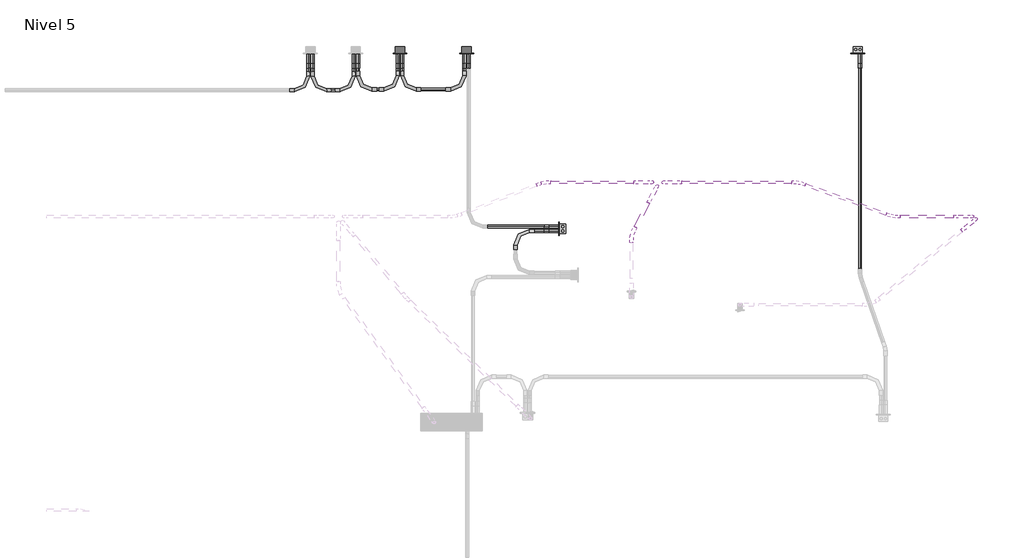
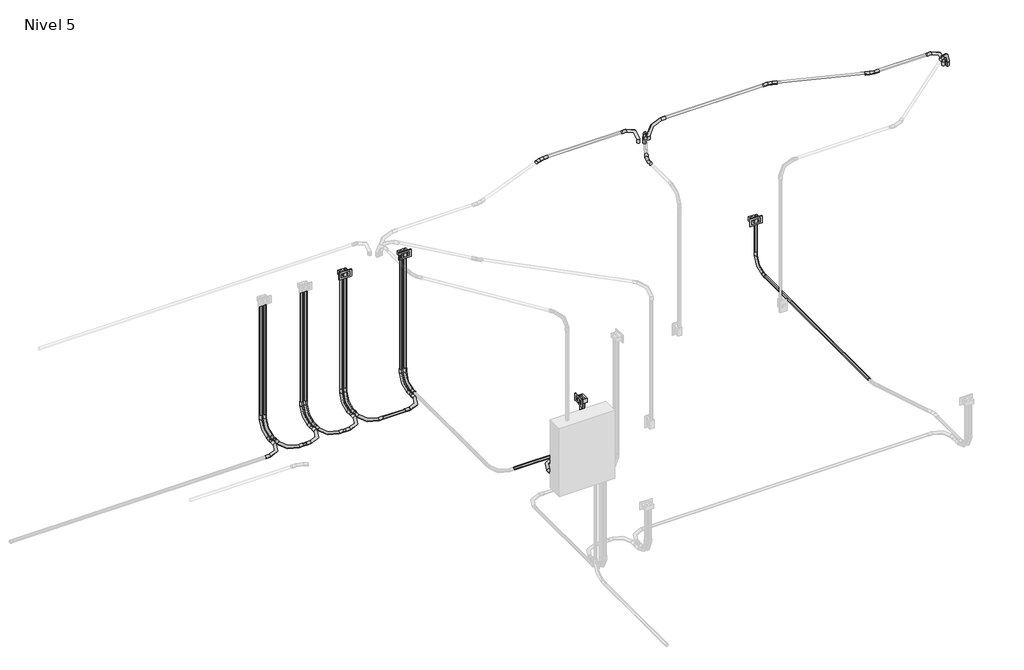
# One storey, part 9 of 9: 29 cable carrier segments, 28 cable carrier fittings, 4 proxies.
"""IFC4 building model written with IfcOpenShell, lengths in millimetres."""

from ifc_helpers import new_model, si_unit, point, frame, frame_2d, origin, place, context, project, spatial, circle_curve, trimmed, segment, composite_curve, outline, extrude, transform, mapped, element, save
from components import gfci_180f1b41, m_codo_de_tubo_extremo_liso_pvc_9da73e12, m_codo_de_tubo_extremo_liso_pvc_102f0f41, m_codo_de_tubo_extremo_liso_pvc_da9ca040, m_codo_de_tubo_extremo_liso_pvc_9389fd72, m_codo_de_tubo_extremo_liso_pvc_c6f8b71f

model = new_model("IFC4")

# Units and contexts
model_context = context("Model", 3, world=origin())
ifc_project = project(units=[si_unit("LENGTHUNIT", "METRE", prefix="MILLI")], contexts=[model_context])

# Site, building, storey
site = spatial("IfcSite", under=ifc_project)
building = spatial("IfcBuilding", under=site)
storey = spatial("IfcBuildingStorey", under=building, Name="Nivel 5", Elevation=10750.0)

# Proxies
placement = place(None, origin())
gfci_shape = gfci_180f1b41(model_context)
element("IfcBuildingElementProxy", 1, Name="Tomacorriente doble 220V : GFCI", ObjectType="Tomacorriente doble 220V : GFCI", at=placement, inside=storey, context=model_context, shape_type="MappedRepresentation", body=[
    mapped(gfci_shape, transform((3069.6888755, 17515.0, 11950.0), x_axis=(0.0, 0.0, 1.0), y_axis=(-1.0, 0.0, 0.0), z_axis=(0.0, -1.0, 0.0))),
])
element("IfcBuildingElementProxy", 2, Name="Tomacorriente doble 220V : GFCI", ObjectType="Tomacorriente doble 220V : GFCI", at=placement, inside=storey, context=model_context, shape_type="MappedRepresentation", body=[
    mapped(gfci_shape, transform((3617.6307595, 17515.0, 11950.0), x_axis=(0.0, 0.0, 1.0), y_axis=(-1.0, 0.0, 0.0), z_axis=(0.0, -1.0, 0.0))),
])
element("IfcBuildingElementProxy", 3, Name="Tomacorriente doble 220V : GFCI", ObjectType="Tomacorriente doble 220V : GFCI", at=placement, inside=storey, context=model_context, shape_type="MappedRepresentation", body=[
    mapped(gfci_shape, transform((4379.9531324, 16068.3219784, 11150.0), x_axis=(0.0, 0.0, 1.0), y_axis=(0.0, 1.0, 0.0), z_axis=(-1.0, 0.0, 0.0))),
])
element("IfcBuildingElementProxy", 4, Name="Tomacorriente doble 220V : GFCI", ObjectType="Tomacorriente doble 220V : GFCI", at=placement, inside=storey, context=model_context, shape_type="MappedRepresentation", body=[
    mapped(gfci_shape, transform((6835.4737929, 17515.0, 11150.0), x_axis=(0.0, 0.0, 1.0), y_axis=(-1.0, 0.0, 0.0), z_axis=(0.0, -1.0, 0.0))),
])

# Cable carrier fittings
m_codo_de_tubo_extremo_liso_pvc_shape = m_codo_de_tubo_extremo_liso_pvc_9da73e12(model_context)
element("IfcCableCarrierFitting", 5, ObjectType="M_Codo de tubo - Extremo liso - PVC : CODO POTENCIA", at=placement, inside=storey, context=model_context, shape_type="MappedRepresentation", body=[
    mapped(m_codo_de_tubo_extremo_liso_pvc_shape, transform((2350.9921117, 17544.6371118, 10680.0), x_axis=(0.0, 0.0, -1.0), y_axis=(0.0, -1.0, 0.0), z_axis=(-1.0, 0.0, 0.0))),
])
element("IfcCableCarrierFitting", 6, ObjectType="M_Codo de tubo - Extremo liso - PVC : CODO POTENCIA", at=placement, inside=storey, context=model_context, shape_type="MappedRepresentation", body=[
    mapped(m_codo_de_tubo_extremo_liso_pvc_shape, transform((2314.9284721, 17544.6371118, 10680.0), x_axis=(0.0, 0.0, -1.0), y_axis=(0.0, -1.0, 0.0), z_axis=(-1.0, 0.0, 0.0))),
])
element("IfcCableCarrierFitting", 7, ObjectType="M_Codo de tubo - Extremo liso - PVC : CODO POTENCIA", at=placement, inside=storey, context=model_context, shape_type="MappedRepresentation", body=[
    mapped(m_codo_de_tubo_extremo_liso_pvc_shape, transform((2688.4770064, 17544.6371118, 10680.0), x_axis=(0.0, 0.0, -1.0), y_axis=(0.0, -1.0, 0.0), z_axis=(-1.0, 0.0, 0.0))),
])
element("IfcCableCarrierFitting", 8, ObjectType="M_Codo de tubo - Extremo liso - PVC : CODO POTENCIA", at=placement, inside=storey, context=model_context, shape_type="MappedRepresentation", body=[
    mapped(m_codo_de_tubo_extremo_liso_pvc_shape, transform((2724.540646, 17544.6371118, 10680.0), x_axis=(0.0, 0.0, -1.0), y_axis=(0.0, -1.0, 0.0), z_axis=(-1.0, 0.0, 0.0))),
])
element("IfcCableCarrierFitting", 9, ObjectType="M_Codo de tubo - Extremo liso - PVC : CODO POTENCIA", at=placement, inside=storey, context=model_context, shape_type="MappedRepresentation", body=[
    mapped(m_codo_de_tubo_extremo_liso_pvc_shape, transform((3051.6570557, 17544.6371118, 10680.0), x_axis=(0.0, 0.0, -1.0), y_axis=(0.0, -1.0, 0.0), z_axis=(-1.0, 0.0, 0.0))),
])
element("IfcCableCarrierFitting", 10, ObjectType="M_Codo de tubo - Extremo liso - PVC : CODO POTENCIA", at=placement, inside=storey, context=model_context, shape_type="MappedRepresentation", body=[
    mapped(m_codo_de_tubo_extremo_liso_pvc_shape, transform((3087.7206953, 17544.6371118, 10680.0), x_axis=(0.0, 0.0, -1.0), y_axis=(0.0, -1.0, 0.0), z_axis=(-1.0, 0.0, 0.0))),
])
element("IfcCableCarrierFitting", 11, ObjectType="M_Codo de tubo - Extremo liso - PVC : CODO POTENCIA", at=placement, inside=storey, context=model_context, shape_type="MappedRepresentation", body=[
    mapped(m_codo_de_tubo_extremo_liso_pvc_shape, transform((3599.5989397, 17544.6371118, 10680.0), x_axis=(0.0, 0.0, -1.0), y_axis=(0.0, -1.0, 0.0), z_axis=(-1.0, 0.0, 0.0))),
])
element("IfcCableCarrierFitting", 12, ObjectType="M_Codo de tubo - Extremo liso - PVC : CODO POTENCIA", at=placement, inside=storey, context=model_context, shape_type="MappedRepresentation", body=[
    mapped(m_codo_de_tubo_extremo_liso_pvc_shape, transform((3635.6625794, 17544.6371118, 10680.0), x_axis=(0.0, 0.0, -1.0), y_axis=(0.0, -1.0, 0.0), z_axis=(-1.0, 0.0, 0.0))),
])
element("IfcCableCarrierFitting", 13, ObjectType="M_Codo de tubo - Extremo liso - PVC : CODO POTENCIA", at=placement, inside=storey, context=model_context, shape_type="MappedRepresentation", body=[
    mapped(m_codo_de_tubo_extremo_liso_pvc_shape, transform((4409.5902442, 16050.2901586, 10680.0), x_axis=(0.0, 0.0, -1.0), y_axis=(-1.0, 0.0, 0.0), z_axis=(0.0, 1.0, 0.0))),
])
element("IfcCableCarrierFitting", 14, ObjectType="M_Codo de tubo - Extremo liso - PVC : CODO POTENCIA", at=placement, inside=storey, context=model_context, shape_type="MappedRepresentation", body=[
    mapped(m_codo_de_tubo_extremo_liso_pvc_shape, transform((6853.5056127, 17544.6371118, 10680.0), x_axis=(0.0, 0.0, -1.0), y_axis=(0.0, -1.0, 0.0), z_axis=(-1.0, 0.0, 0.0))),
])
element("IfcCableCarrierFitting", 15, ObjectType="M_Codo de tubo - Extremo liso - PVC : CODO POTENCIA", at=placement, inside=storey, context=model_context, shape_type="MappedRepresentation", body=[
    mapped(m_codo_de_tubo_extremo_liso_pvc_shape, transform((4020.3160206, 16050.2901586, 10680.0), x_axis=(-1.0, 0.0, 0.0), y_axis=(0.0, -1.0, 0.0), z_axis=(0.0, 0.0, 1.0))),
])
element("IfcCableCarrierFitting", 16, ObjectType="M_Codo de tubo - Extremo liso - PVC : CODO POTENCIA", at=placement, inside=storey, context=model_context, shape_type="MappedRepresentation", body=[
    mapped(m_codo_de_tubo_extremo_liso_pvc_shape, transform((4409.5902442, 16086.3537982, 10680.0), x_axis=(0.0, 0.0, -1.0), y_axis=(-1.0, 0.0, 0.0), z_axis=(0.0, 1.0, 0.0))),
])
element("IfcCableCarrierFitting", 17, ObjectType="M_Codo de tubo - Extremo liso - PVC : CODO POTENCIA", at=placement, inside=storey, context=model_context, shape_type="MappedRepresentation", body=[
    mapped(m_codo_de_tubo_extremo_liso_pvc_shape, transform((3087.7206953, 17215.4019357, 10680.0), x_axis=(0.0, -1.0, 0.0), y_axis=(1.0, 0.0, 0.0), z_axis=(0.0, 0.0, 1.0))),
])
element("IfcCableCarrierFitting", 18, ObjectType="M_Codo de tubo - Extremo liso - PVC : CODO POTENCIA", at=placement, inside=storey, context=model_context, shape_type="MappedRepresentation", body=[
    mapped(m_codo_de_tubo_extremo_liso_pvc_shape, transform((3599.5989397, 17215.4019357, 10680.0), x_axis=(1.0, 0.0, 0.0), y_axis=(0.0, 1.0, 0.0), z_axis=(0.0, 0.0, 1.0))),
])
element("IfcCableCarrierFitting", 19, ObjectType="M_Codo de tubo - Extremo liso - PVC : CODO POTENCIA", at=placement, inside=storey, context=model_context, shape_type="MappedRepresentation", body=[
    mapped(m_codo_de_tubo_extremo_liso_pvc_shape, transform((2724.540646, 17215.4019357, 10680.0), x_axis=(0.0, -1.0, 0.0), y_axis=(1.0, 0.0, 0.0), z_axis=(0.0, 0.0, 1.0))),
])
element("IfcCableCarrierFitting", 20, ObjectType="M_Codo de tubo - Extremo liso - PVC : CODO POTENCIA", at=placement, inside=storey, context=model_context, shape_type="MappedRepresentation", body=[
    mapped(m_codo_de_tubo_extremo_liso_pvc_shape, transform((3051.6570557, 17215.4019357, 10680.0), x_axis=(1.0, 0.0, 0.0), y_axis=(0.0, 1.0, 0.0), z_axis=(0.0, 0.0, 1.0))),
])
element("IfcCableCarrierFitting", 21, ObjectType="M_Codo de tubo - Extremo liso - PVC : CODO POTENCIA", at=placement, inside=storey, context=model_context, shape_type="MappedRepresentation", body=[
    mapped(m_codo_de_tubo_extremo_liso_pvc_shape, transform((2350.9921117, 17208.8420057, 10680.0), x_axis=(0.0, -1.0, 0.0), y_axis=(1.0, 0.0, 0.0), z_axis=(0.0, 0.0, 1.0))),
])
element("IfcCableCarrierFitting", 22, ObjectType="M_Codo de tubo - Extremo liso - PVC : CODO POTENCIA", at=placement, inside=storey, context=model_context, shape_type="MappedRepresentation", body=[
    mapped(m_codo_de_tubo_extremo_liso_pvc_shape, transform((2688.4770064, 17208.8420057, 10680.0), x_axis=(1.0, 0.0, 0.0), y_axis=(0.0, 1.0, 0.0), z_axis=(0.0, 0.0, 1.0))),
])
element("IfcCableCarrierFitting", 23, ObjectType="M_Codo de tubo - Extremo liso - PVC : CODO POTENCIA", at=placement, inside=storey, context=model_context, shape_type="MappedRepresentation", body=[
    mapped(m_codo_de_tubo_extremo_liso_pvc_shape, transform((2314.9284721, 17208.8420057, 10680.0), x_axis=(1.0, 0.0, 0.0), y_axis=(0.0, 1.0, 0.0), z_axis=(0.0, 0.0, 1.0))),
])
element("IfcCableCarrierFitting", 24, ObjectType="M_Codo de tubo - Extremo liso - PVC : CODO ILUMINACION", at=placement, inside=storey, context=model_context, shape_type="MappedRepresentation", body=[
    mapped(m_codo_de_tubo_extremo_liso_pvc_shape, transform((5236.4815144, 16450.3457928, 13300.0), x_axis=(-1.0, 0.0, 0.0), y_axis=(0.0, 0.0, -1.0), z_axis=(0.0, -1.0, 0.0))),
])
element("IfcCableCarrierFitting", 25, ObjectType="M_Codo de tubo - Extremo liso - PVC : CODO ILUMINACION", at=placement, inside=storey, context=model_context, shape_type="MappedRepresentation", body=[
    mapped(m_codo_de_tubo_extremo_liso_pvc_shape, transform((5183.5746013, 16418.2767291, 13300.0), x_axis=(0.46947156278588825, 0.8829475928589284, 0.0), y_axis=(0.0, 0.0, -1.0000000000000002), z_axis=(-0.8829475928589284, 0.46947156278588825, 0.0))),
])
element("IfcCableCarrierFitting", 26, ObjectType="M_Codo de tubo - Extremo liso - PVC : CODO ILUMINACION", at=placement, inside=storey, context=model_context, shape_type="MappedRepresentation", body=[
    mapped(m_codo_de_tubo_extremo_liso_pvc_shape, transform((7806.0848215, 16148.8589998, 13300.0), x_axis=(0.7716684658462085, 0.6360249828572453, 0.0), y_axis=(0.0, 0.0, -1.0000000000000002), z_axis=(-0.6360249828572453, 0.7716684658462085, 0.0))),
])
m_codo_de_tubo_extremo_liso_pvc_2_shape = m_codo_de_tubo_extremo_liso_pvc_102f0f41(model_context)
element("IfcCableCarrierFitting", 27, ObjectType="M_Codo de tubo - Extremo liso - PVC : CODO ILUMINACION", at=placement, inside=storey, context=model_context, shape_type="MappedRepresentation", body=[
    mapped(m_codo_de_tubo_extremo_liso_pvc_2_shape, transform((5143.3290956, 16450.3457928, 13300.0), x_axis=(1.0, 0.0, 0.0), y_axis=(0.0, 0.0, 1.0), z_axis=(0.0, -1.0, 0.0))),
])
element("IfcCableCarrierFitting", 28, ObjectType="M_Codo de tubo - Extremo liso - PVC : CODO ILUMINACION", at=placement, inside=storey, context=model_context, shape_type="MappedRepresentation", body=[
    mapped(m_codo_de_tubo_extremo_liso_pvc_2_shape, transform((7777.305418, 16168.6370953, 13300.0), x_axis=(1.0, 0.0, 0.0), y_axis=(0.0, 0.0, 1.0), z_axis=(0.0, -1.0, 0.0))),
])
m_codo_de_tubo_extremo_liso_pvc_3_shape = m_codo_de_tubo_extremo_liso_pvc_da9ca040(model_context)
element("IfcCableCarrierFitting", 29, ObjectType="M_Codo de tubo - Extremo liso - PVC : CODO ILUMINACION", at=placement, inside=storey, context=model_context, shape_type="MappedRepresentation", body=[
    mapped(m_codo_de_tubo_extremo_liso_pvc_3_shape, transform((4250.9290956, 16450.3457928, 13300.0), x_axis=(-1.0, 0.0, 0.0), y_axis=(0.0, -1.0, 0.0), z_axis=(0.0, 0.0, 1.0))),
])
m_codo_de_tubo_extremo_liso_pvc_4_shape = m_codo_de_tubo_extremo_liso_pvc_9389fd72(model_context)
element("IfcCableCarrierFitting", 30, ObjectType="M_Codo de tubo - Extremo liso - PVC : CODO ILUMINACION", at=placement, inside=storey, context=model_context, shape_type="MappedRepresentation", body=[
    mapped(m_codo_de_tubo_extremo_liso_pvc_4_shape, transform((6348.8815144, 16450.3457928, 13300.0), x_axis=(-0.9399807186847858, 0.3412275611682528, 0.0), y_axis=(-0.3412275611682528, -0.9399807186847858, 0.0), z_axis=(0.0, 0.0, 1.0))),
])
element("IfcCableCarrierFitting", 31, ObjectType="M_Codo de tubo - Extremo liso - PVC : CODO ILUMINACION", at=placement, inside=storey, context=model_context, shape_type="MappedRepresentation", body=[
    mapped(m_codo_de_tubo_extremo_liso_pvc_4_shape, transform((7124.905418, 16168.6370953, 13300.0), x_axis=(0.9399807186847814, -0.3412275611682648, 0.0), y_axis=(0.3412275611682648, 0.9399807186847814, 0.0), z_axis=(0.0, 0.0, 1.0))),
])
m_codo_de_tubo_extremo_liso_pvc_5_shape = m_codo_de_tubo_extremo_liso_pvc_c6f8b71f(model_context)
element("IfcCableCarrierFitting", 32, ObjectType="M_Codo de tubo - Extremo liso - PVC : CODO ILUMINACION", at=placement, inside=storey, context=model_context, shape_type="MappedRepresentation", body=[
    mapped(m_codo_de_tubo_extremo_liso_pvc_5_shape, transform((4973.7041598, 16023.5678356, 13300.0), x_axis=(-0.4694715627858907, -0.882947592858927, 0.0), y_axis=(0.882947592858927, -0.4694715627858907, 0.0), z_axis=(0.0, 0.0, 1.0))),
])

# Cable carrier segments
element("IfcCableCarrierSegment", 33, ObjectType="PVC-SEL, POTENCIA", at=placement, inside=storey, context=model_context, shape_type="SweptSolid", body=[
    extrude(outline(composite_curve([segment(trimmed(circle_curve(frame_2d((10680.0, 2350.9921117)), 11.71), [point((10680.0, 2339.2821117))], [point((10668.29, 2350.9921117))], False, "CARTESIAN"), True, "CONTINUOUS"), segment(trimmed(circle_curve(frame_2d((10680.0, 2350.9921117)), 11.71), [point((10668.29, 2350.9921117))], [point((10680.0, 2362.7021117))], False, "CARTESIAN"), True, "CONTINUOUS"), segment(trimmed(circle_curve(frame_2d((10680.0, 2350.9921117)), 11.71), [point((10680.0, 2362.7021117))], [point((10691.71, 2350.9921117))], False, "CARTESIAN"), True, "CONTINUOUS"), segment(trimmed(circle_curve(frame_2d((10680.0, 2350.9921117)), 11.71), [point((10691.71, 2350.9921117))], [point((10680.0, 2339.2821117))], False, "CARTESIAN"), True, "CONTINUOUS")], self_intersect=False)), frame((0.0, 17361.2420057, 0.0), z_axis=(0.0, 1.0, 0.0), x_axis=(0.0, 0.0, 1.0)), (0.0, 0.0, 1.0), 30.9951061),
])
element("IfcCableCarrierSegment", 34, ObjectType="PVC-SEL, POTENCIA", at=placement, inside=storey, context=model_context, shape_type="SweptSolid", body=[
    extrude(outline(composite_curve([segment(trimmed(circle_curve(frame_2d((2350.9921117, 17544.6371118)), 11.71), [point((2362.7021117, 17544.6371118))], [point((2350.9921117, 17532.9271118))], False, "CARTESIAN"), True, "CONTINUOUS"), segment(trimmed(circle_curve(frame_2d((2350.9921117, 17544.6371118)), 11.71), [point((2350.9921117, 17532.9271118))], [point((2339.2821117, 17544.6371118))], False, "CARTESIAN"), True, "CONTINUOUS"), segment(trimmed(circle_curve(frame_2d((2350.9921117, 17544.6371118)), 11.71), [point((2339.2821117, 17544.6371118))], [point((2350.9921117, 17556.3471118))], False, "CARTESIAN"), True, "CONTINUOUS"), segment(trimmed(circle_curve(frame_2d((2350.9921117, 17544.6371118)), 11.71), [point((2350.9921117, 17556.3471118))], [point((2362.7021117, 17544.6371118))], False, "CARTESIAN"), True, "CONTINUOUS")], self_intersect=False)), frame((0.0, 0.0, 10832.4), z_axis=(0.0, 0.0, 1.0), x_axis=(1.0, 0.0, 0.0)), (0.0, 0.0, 1.0), 1097.3020537),
])
element("IfcCableCarrierSegment", 35, ObjectType="PVC-SEL, POTENCIA", at=placement, inside=storey, context=model_context, shape_type="SweptSolid", body=[
    extrude(outline(composite_curve([segment(trimmed(circle_curve(frame_2d((10680.0, 2314.9284721)), 11.71), [point((10680.0, 2303.2184721))], [point((10668.29, 2314.9284721))], False, "CARTESIAN"), True, "CONTINUOUS"), segment(trimmed(circle_curve(frame_2d((10680.0, 2314.9284721)), 11.71), [point((10668.29, 2314.9284721))], [point((10680.0, 2326.6384721))], False, "CARTESIAN"), True, "CONTINUOUS"), segment(trimmed(circle_curve(frame_2d((10680.0, 2314.9284721)), 11.71), [point((10680.0, 2326.6384721))], [point((10691.71, 2314.9284721))], False, "CARTESIAN"), True, "CONTINUOUS"), segment(trimmed(circle_curve(frame_2d((10680.0, 2314.9284721)), 11.71), [point((10691.71, 2314.9284721))], [point((10680.0, 2303.2184721))], False, "CARTESIAN"), True, "CONTINUOUS")], self_intersect=False)), frame((0.0, 17361.2420057, 0.0), z_axis=(0.0, 1.0, 0.0), x_axis=(0.0, 0.0, 1.0)), (0.0, 0.0, 1.0), 30.9951061),
])
element("IfcCableCarrierSegment", 36, ObjectType="PVC-SEL, POTENCIA", at=placement, inside=storey, context=model_context, shape_type="SweptSolid", body=[
    extrude(outline(composite_curve([segment(trimmed(circle_curve(frame_2d((2314.9284721, 17544.6371118)), 11.71), [point((2326.6384721, 17544.6371118))], [point((2314.9284721, 17532.9271118))], False, "CARTESIAN"), True, "CONTINUOUS"), segment(trimmed(circle_curve(frame_2d((2314.9284721, 17544.6371118)), 11.71), [point((2314.9284721, 17532.9271118))], [point((2303.2184721, 17544.6371118))], False, "CARTESIAN"), True, "CONTINUOUS"), segment(trimmed(circle_curve(frame_2d((2314.9284721, 17544.6371118)), 11.71), [point((2303.2184721, 17544.6371118))], [point((2314.9284721, 17556.3471118))], False, "CARTESIAN"), True, "CONTINUOUS"), segment(trimmed(circle_curve(frame_2d((2314.9284721, 17544.6371118)), 11.71), [point((2314.9284721, 17556.3471118))], [point((2326.6384721, 17544.6371118))], False, "CARTESIAN"), True, "CONTINUOUS")], self_intersect=False)), frame((0.0, 0.0, 10832.4), z_axis=(0.0, 0.0, 1.0), x_axis=(1.0, 0.0, 0.0)), (0.0, 0.0, 1.0), 1097.3020537),
])
element("IfcCableCarrierSegment", 37, ObjectType="PVC-SEL, POTENCIA", at=placement, inside=storey, context=model_context, shape_type="SweptSolid", body=[
    extrude(outline(composite_curve([segment(trimmed(circle_curve(frame_2d((10680.0, 2688.4770064)), 11.71), [point((10680.0, 2676.7670064))], [point((10668.29, 2688.4770064))], False, "CARTESIAN"), True, "CONTINUOUS"), segment(trimmed(circle_curve(frame_2d((10680.0, 2688.4770064)), 11.71), [point((10668.29, 2688.4770064))], [point((10680.0, 2700.1870064))], False, "CARTESIAN"), True, "CONTINUOUS"), segment(trimmed(circle_curve(frame_2d((10680.0, 2688.4770064)), 11.71), [point((10680.0, 2700.1870064))], [point((10691.71, 2688.4770064))], False, "CARTESIAN"), True, "CONTINUOUS"), segment(trimmed(circle_curve(frame_2d((10680.0, 2688.4770064)), 11.71), [point((10691.71, 2688.4770064))], [point((10680.0, 2676.7670064))], False, "CARTESIAN"), True, "CONTINUOUS")], self_intersect=False)), frame((0.0, 17361.2420057, 0.0), z_axis=(0.0, 1.0, 0.0), x_axis=(0.0, 0.0, 1.0)), (0.0, 0.0, 1.0), 30.9951061),
])
element("IfcCableCarrierSegment", 38, ObjectType="PVC-SEL, POTENCIA", at=placement, inside=storey, context=model_context, shape_type="SweptSolid", body=[
    extrude(outline(composite_curve([segment(trimmed(circle_curve(frame_2d((2688.4770064, 17544.6371118)), 11.71), [point((2700.1870064, 17544.6371118))], [point((2688.4770064, 17532.9271118))], False, "CARTESIAN"), True, "CONTINUOUS"), segment(trimmed(circle_curve(frame_2d((2688.4770064, 17544.6371118)), 11.71), [point((2688.4770064, 17532.9271118))], [point((2676.7670064, 17544.6371118))], False, "CARTESIAN"), True, "CONTINUOUS"), segment(trimmed(circle_curve(frame_2d((2688.4770064, 17544.6371118)), 11.71), [point((2676.7670064, 17544.6371118))], [point((2688.4770064, 17556.3471118))], False, "CARTESIAN"), True, "CONTINUOUS"), segment(trimmed(circle_curve(frame_2d((2688.4770064, 17544.6371118)), 11.71), [point((2688.4770064, 17556.3471118))], [point((2700.1870064, 17544.6371118))], False, "CARTESIAN"), True, "CONTINUOUS")], self_intersect=False)), frame((0.0, 0.0, 10832.4), z_axis=(0.0, 0.0, 1.0), x_axis=(1.0, 0.0, 0.0)), (0.0, 0.0, 1.0), 1097.3020537),
])
element("IfcCableCarrierSegment", 39, ObjectType="PVC-SEL, POTENCIA", at=placement, inside=storey, context=model_context, shape_type="SweptSolid", body=[
    extrude(outline(composite_curve([segment(trimmed(circle_curve(frame_2d((10680.0, 2724.540646)), 11.71), [point((10680.0, 2712.830646))], [point((10668.29, 2724.540646))], False, "CARTESIAN"), True, "CONTINUOUS"), segment(trimmed(circle_curve(frame_2d((10680.0, 2724.540646)), 11.71), [point((10668.29, 2724.540646))], [point((10680.0, 2736.250646))], False, "CARTESIAN"), True, "CONTINUOUS"), segment(trimmed(circle_curve(frame_2d((10680.0, 2724.540646)), 11.71), [point((10680.0, 2736.250646))], [point((10691.71, 2724.540646))], False, "CARTESIAN"), True, "CONTINUOUS"), segment(trimmed(circle_curve(frame_2d((10680.0, 2724.540646)), 11.71), [point((10691.71, 2724.540646))], [point((10680.0, 2712.830646))], False, "CARTESIAN"), True, "CONTINUOUS")], self_intersect=False)), frame((0.0, 17367.8019357, 0.0), z_axis=(0.0, 1.0, 0.0), x_axis=(0.0, 0.0, 1.0)), (0.0, 0.0, 1.0), 24.435176),
])
element("IfcCableCarrierSegment", 40, ObjectType="PVC-SEL, POTENCIA", at=placement, inside=storey, context=model_context, shape_type="SweptSolid", body=[
    extrude(outline(composite_curve([segment(trimmed(circle_curve(frame_2d((2724.540646, 17544.6371118)), 11.71), [point((2736.250646, 17544.6371118))], [point((2724.540646, 17532.9271118))], False, "CARTESIAN"), True, "CONTINUOUS"), segment(trimmed(circle_curve(frame_2d((2724.540646, 17544.6371118)), 11.71), [point((2724.540646, 17532.9271118))], [point((2712.830646, 17544.6371118))], False, "CARTESIAN"), True, "CONTINUOUS"), segment(trimmed(circle_curve(frame_2d((2724.540646, 17544.6371118)), 11.71), [point((2712.830646, 17544.6371118))], [point((2724.540646, 17556.3471118))], False, "CARTESIAN"), True, "CONTINUOUS"), segment(trimmed(circle_curve(frame_2d((2724.540646, 17544.6371118)), 11.71), [point((2724.540646, 17556.3471118))], [point((2736.250646, 17544.6371118))], False, "CARTESIAN"), True, "CONTINUOUS")], self_intersect=False)), frame((0.0, 0.0, 10832.4), z_axis=(0.0, 0.0, 1.0), x_axis=(1.0, 0.0, 0.0)), (0.0, 0.0, 1.0), 1097.3020537),
])
element("IfcCableCarrierSegment", 41, ObjectType="PVC-SEL, POTENCIA", at=placement, inside=storey, context=model_context, shape_type="SweptSolid", body=[
    extrude(outline(composite_curve([segment(trimmed(circle_curve(frame_2d((10680.0, 3051.6570557)), 11.71), [point((10680.0, 3039.9470557))], [point((10668.29, 3051.6570557))], False, "CARTESIAN"), True, "CONTINUOUS"), segment(trimmed(circle_curve(frame_2d((10680.0, 3051.6570557)), 11.71), [point((10668.29, 3051.6570557))], [point((10680.0, 3063.3670557))], False, "CARTESIAN"), True, "CONTINUOUS"), segment(trimmed(circle_curve(frame_2d((10680.0, 3051.6570557)), 11.71), [point((10680.0, 3063.3670557))], [point((10691.71, 3051.6570557))], False, "CARTESIAN"), True, "CONTINUOUS"), segment(trimmed(circle_curve(frame_2d((10680.0, 3051.6570557)), 11.71), [point((10691.71, 3051.6570557))], [point((10680.0, 3039.9470557))], False, "CARTESIAN"), True, "CONTINUOUS")], self_intersect=False)), frame((0.0, 17367.8019357, 0.0), z_axis=(0.0, 1.0, 0.0), x_axis=(0.0, 0.0, 1.0)), (0.0, 0.0, 1.0), 24.435176),
])
element("IfcCableCarrierSegment", 42, ObjectType="PVC-SEL, POTENCIA", at=placement, inside=storey, context=model_context, shape_type="SweptSolid", body=[
    extrude(outline(composite_curve([segment(trimmed(circle_curve(frame_2d((3051.6570557, 17544.6371118)), 11.71), [point((3063.3670557, 17544.6371118))], [point((3051.6570557, 17532.9271118))], False, "CARTESIAN"), True, "CONTINUOUS"), segment(trimmed(circle_curve(frame_2d((3051.6570557, 17544.6371118)), 11.71), [point((3051.6570557, 17532.9271118))], [point((3039.9470557, 17544.6371118))], False, "CARTESIAN"), True, "CONTINUOUS"), segment(trimmed(circle_curve(frame_2d((3051.6570557, 17544.6371118)), 11.71), [point((3039.9470557, 17544.6371118))], [point((3051.6570557, 17556.3471118))], False, "CARTESIAN"), True, "CONTINUOUS"), segment(trimmed(circle_curve(frame_2d((3051.6570557, 17544.6371118)), 11.71), [point((3051.6570557, 17556.3471118))], [point((3063.3670557, 17544.6371118))], False, "CARTESIAN"), True, "CONTINUOUS")], self_intersect=False)), frame((0.0, 0.0, 10832.4), z_axis=(0.0, 0.0, 1.0), x_axis=(1.0, 0.0, 0.0)), (0.0, 0.0, 1.0), 1097.3020537),
])
element("IfcCableCarrierSegment", 43, ObjectType="PVC-SEL, POTENCIA", at=placement, inside=storey, context=model_context, shape_type="SweptSolid", body=[
    extrude(outline(composite_curve([segment(trimmed(circle_curve(frame_2d((10680.0, 3087.7206953)), 11.71), [point((10680.0, 3076.0106953))], [point((10668.29, 3087.7206953))], False, "CARTESIAN"), True, "CONTINUOUS"), segment(trimmed(circle_curve(frame_2d((10680.0, 3087.7206953)), 11.71), [point((10668.29, 3087.7206953))], [point((10680.0, 3099.4306953))], False, "CARTESIAN"), True, "CONTINUOUS"), segment(trimmed(circle_curve(frame_2d((10680.0, 3087.7206953)), 11.71), [point((10680.0, 3099.4306953))], [point((10691.71, 3087.7206953))], False, "CARTESIAN"), True, "CONTINUOUS"), segment(trimmed(circle_curve(frame_2d((10680.0, 3087.7206953)), 11.71), [point((10691.71, 3087.7206953))], [point((10680.0, 3076.0106953))], False, "CARTESIAN"), True, "CONTINUOUS")], self_intersect=False)), frame((0.0, 17367.8019357, 0.0), z_axis=(0.0, 1.0, 0.0), x_axis=(0.0, 0.0, 1.0)), (0.0, 0.0, 1.0), 24.435176),
])
element("IfcCableCarrierSegment", 44, ObjectType="PVC-SEL, POTENCIA", at=placement, inside=storey, context=model_context, shape_type="SweptSolid", body=[
    extrude(outline(composite_curve([segment(trimmed(circle_curve(frame_2d((3087.7206953, 17544.6371118)), 11.71), [point((3099.4306953, 17544.6371118))], [point((3087.7206953, 17532.9271118))], False, "CARTESIAN"), True, "CONTINUOUS"), segment(trimmed(circle_curve(frame_2d((3087.7206953, 17544.6371118)), 11.71), [point((3087.7206953, 17532.9271118))], [point((3076.0106953, 17544.6371118))], False, "CARTESIAN"), True, "CONTINUOUS"), segment(trimmed(circle_curve(frame_2d((3087.7206953, 17544.6371118)), 11.71), [point((3076.0106953, 17544.6371118))], [point((3087.7206953, 17556.3471118))], False, "CARTESIAN"), True, "CONTINUOUS"), segment(trimmed(circle_curve(frame_2d((3087.7206953, 17544.6371118)), 11.71), [point((3087.7206953, 17556.3471118))], [point((3099.4306953, 17544.6371118))], False, "CARTESIAN"), True, "CONTINUOUS")], self_intersect=False)), frame((0.0, 0.0, 10832.4), z_axis=(0.0, 0.0, 1.0), x_axis=(1.0, 0.0, 0.0)), (0.0, 0.0, 1.0), 1097.3020537),
])
element("IfcCableCarrierSegment", 45, ObjectType="PVC-SEL, POTENCIA", at=placement, inside=storey, context=model_context, shape_type="SweptSolid", body=[
    extrude(outline(composite_curve([segment(trimmed(circle_curve(frame_2d((10680.0, 3599.5989397)), 11.71), [point((10680.0, 3587.8889397))], [point((10668.29, 3599.5989397))], False, "CARTESIAN"), True, "CONTINUOUS"), segment(trimmed(circle_curve(frame_2d((10680.0, 3599.5989397)), 11.71), [point((10668.29, 3599.5989397))], [point((10680.0, 3611.3089397))], False, "CARTESIAN"), True, "CONTINUOUS"), segment(trimmed(circle_curve(frame_2d((10680.0, 3599.5989397)), 11.71), [point((10680.0, 3611.3089397))], [point((10691.71, 3599.5989397))], False, "CARTESIAN"), True, "CONTINUOUS"), segment(trimmed(circle_curve(frame_2d((10680.0, 3599.5989397)), 11.71), [point((10691.71, 3599.5989397))], [point((10680.0, 3587.8889397))], False, "CARTESIAN"), True, "CONTINUOUS")], self_intersect=False)), frame((0.0, 17367.8019357, 0.0), z_axis=(0.0, 1.0, 0.0), x_axis=(0.0, 0.0, 1.0)), (0.0, 0.0, 1.0), 24.435176),
])
element("IfcCableCarrierSegment", 46, ObjectType="PVC-SEL, POTENCIA", at=placement, inside=storey, context=model_context, shape_type="SweptSolid", body=[
    extrude(outline(composite_curve([segment(trimmed(circle_curve(frame_2d((3599.5989397, 17544.6371118)), 11.71), [point((3611.3089397, 17544.6371118))], [point((3599.5989397, 17532.9271118))], False, "CARTESIAN"), True, "CONTINUOUS"), segment(trimmed(circle_curve(frame_2d((3599.5989397, 17544.6371118)), 11.71), [point((3599.5989397, 17532.9271118))], [point((3587.8889397, 17544.6371118))], False, "CARTESIAN"), True, "CONTINUOUS"), segment(trimmed(circle_curve(frame_2d((3599.5989397, 17544.6371118)), 11.71), [point((3587.8889397, 17544.6371118))], [point((3599.5989397, 17556.3471118))], False, "CARTESIAN"), True, "CONTINUOUS"), segment(trimmed(circle_curve(frame_2d((3599.5989397, 17544.6371118)), 11.71), [point((3599.5989397, 17556.3471118))], [point((3611.3089397, 17544.6371118))], False, "CARTESIAN"), True, "CONTINUOUS")], self_intersect=False)), frame((0.0, 0.0, 10832.4), z_axis=(0.0, 0.0, 1.0), x_axis=(1.0, 0.0, 0.0)), (0.0, 0.0, 1.0), 1097.3020537),
])
element("IfcCableCarrierSegment", 47, ObjectType="PVC-SEL, POTENCIA", at=placement, inside=storey, context=model_context, shape_type="SweptSolid", body=[
    extrude(outline(composite_curve([segment(trimmed(circle_curve(frame_2d((3635.6625794, 17544.6371118)), 11.71), [point((3647.3725794, 17544.6371118))], [point((3635.6625794, 17532.9271118))], False, "CARTESIAN"), True, "CONTINUOUS"), segment(trimmed(circle_curve(frame_2d((3635.6625794, 17544.6371118)), 11.71), [point((3635.6625794, 17532.9271118))], [point((3623.9525794, 17544.6371118))], False, "CARTESIAN"), True, "CONTINUOUS"), segment(trimmed(circle_curve(frame_2d((3635.6625794, 17544.6371118)), 11.71), [point((3623.9525794, 17544.6371118))], [point((3635.6625794, 17556.3471118))], False, "CARTESIAN"), True, "CONTINUOUS"), segment(trimmed(circle_curve(frame_2d((3635.6625794, 17544.6371118)), 11.71), [point((3635.6625794, 17556.3471118))], [point((3647.3725794, 17544.6371118))], False, "CARTESIAN"), True, "CONTINUOUS")], self_intersect=False)), frame((0.0, 0.0, 10832.4), z_axis=(0.0, 0.0, 1.0), x_axis=(1.0, 0.0, 0.0)), (0.0, 0.0, 1.0), 1097.3020537),
])
element("IfcCableCarrierSegment", 48, ObjectType="PVC-SEL, POTENCIA", at=placement, inside=storey, context=model_context, shape_type="SweptSolid", body=[
    extrude(outline(composite_curve([segment(trimmed(circle_curve(frame_2d((16050.2901586, 10680.0)), 11.71), [point((16062.0001586, 10680.0))], [point((16050.2901586, 10668.29))], False, "CARTESIAN"), True, "CONTINUOUS"), segment(trimmed(circle_curve(frame_2d((16050.2901586, 10680.0)), 11.71), [point((16050.2901586, 10668.29))], [point((16038.5801586, 10680.0))], False, "CARTESIAN"), True, "CONTINUOUS"), segment(trimmed(circle_curve(frame_2d((16050.2901586, 10680.0)), 11.71), [point((16038.5801586, 10680.0))], [point((16050.2901586, 10691.71))], False, "CARTESIAN"), True, "CONTINUOUS"), segment(trimmed(circle_curve(frame_2d((16050.2901586, 10680.0)), 11.71), [point((16050.2901586, 10691.71))], [point((16062.0001586, 10680.0))], False, "CARTESIAN"), True, "CONTINUOUS")], self_intersect=False)), frame((4172.7160206, 0.0, 0.0), z_axis=(1.0, 0.0, 0.0), x_axis=(0.0, 1.0, 0.0)), (0.0, 0.0, 1.0), 84.4742236),
])
element("IfcCableCarrierSegment", 49, ObjectType="PVC-SEL, POTENCIA", at=placement, inside=storey, context=model_context, shape_type="SweptSolid", body=[
    extrude(outline(composite_curve([segment(trimmed(circle_curve(frame_2d((4409.5902442, 16050.2901586)), 11.71), [point((4421.3002442, 16050.2901586))], [point((4409.5902442, 16038.5801586))], False, "CARTESIAN"), True, "CONTINUOUS"), segment(trimmed(circle_curve(frame_2d((4409.5902442, 16050.2901586)), 11.71), [point((4409.5902442, 16038.5801586))], [point((4397.8802442, 16050.2901586))], False, "CARTESIAN"), True, "CONTINUOUS"), segment(trimmed(circle_curve(frame_2d((4409.5902442, 16050.2901586)), 11.71), [point((4397.8802442, 16050.2901586))], [point((4409.5902442, 16062.0001586))], False, "CARTESIAN"), True, "CONTINUOUS"), segment(trimmed(circle_curve(frame_2d((4409.5902442, 16050.2901586)), 11.71), [point((4409.5902442, 16062.0001586))], [point((4421.3002442, 16050.2901586))], False, "CARTESIAN"), True, "CONTINUOUS")], self_intersect=False)), frame((0.0, 0.0, 10832.4), z_axis=(0.0, 0.0, 1.0), x_axis=(1.0, 0.0, 0.0)), (0.0, 0.0, 1.0), 297.3020537),
])
element("IfcCableCarrierSegment", 50, ObjectType="PVC-SEL, POTENCIA", at=placement, inside=storey, context=model_context, shape_type="SweptSolid", body=[
    extrude(outline(composite_curve([segment(trimmed(circle_curve(frame_2d((16086.3537982, 10680.0)), 11.71), [point((16074.6437982, 10680.0))], [point((16086.3537982, 10691.71))], False, "CARTESIAN"), True, "CONTINUOUS"), segment(trimmed(circle_curve(frame_2d((16086.3537982, 10680.0)), 11.71), [point((16086.3537982, 10691.71))], [point((16098.0637982, 10680.0))], False, "CARTESIAN"), True, "CONTINUOUS"), segment(trimmed(circle_curve(frame_2d((16086.3537982, 10680.0)), 11.71), [point((16098.0637982, 10680.0))], [point((16086.3537982, 10668.29))], False, "CARTESIAN"), True, "CONTINUOUS"), segment(trimmed(circle_curve(frame_2d((16086.3537982, 10680.0)), 11.71), [point((16086.3537982, 10668.29))], [point((16074.6437982, 10680.0))], False, "CARTESIAN"), True, "CONTINUOUS")], self_intersect=False)), frame((3788.0625794, 0.0, 0.0), z_axis=(1.0, 0.0, 0.0), x_axis=(0.0, 1.0, 0.0)), (0.0, 0.0, 1.0), 469.1276648),
])
element("IfcCableCarrierSegment", 51, ObjectType="PVC-SEL, POTENCIA", at=placement, inside=storey, context=model_context, shape_type="SweptSolid", body=[
    extrude(outline(composite_curve([segment(trimmed(circle_curve(frame_2d((4409.5902442, 16086.3537982)), 11.71), [point((4421.3002442, 16086.3537982))], [point((4409.5902442, 16074.6437982))], False, "CARTESIAN"), True, "CONTINUOUS"), segment(trimmed(circle_curve(frame_2d((4409.5902442, 16086.3537982)), 11.71), [point((4409.5902442, 16074.6437982))], [point((4397.8802442, 16086.3537982))], False, "CARTESIAN"), True, "CONTINUOUS"), segment(trimmed(circle_curve(frame_2d((4409.5902442, 16086.3537982)), 11.71), [point((4397.8802442, 16086.3537982))], [point((4409.5902442, 16098.0637982))], False, "CARTESIAN"), True, "CONTINUOUS"), segment(trimmed(circle_curve(frame_2d((4409.5902442, 16086.3537982)), 11.71), [point((4409.5902442, 16098.0637982))], [point((4421.3002442, 16086.3537982))], False, "CARTESIAN"), True, "CONTINUOUS")], self_intersect=False)), frame((0.0, 0.0, 10832.4), z_axis=(0.0, 0.0, 1.0), x_axis=(1.0, 0.0, 0.0)), (0.0, 0.0, 1.0), 297.3020537),
])
element("IfcCableCarrierSegment", 52, ObjectType="PVC-SEL, POTENCIA", at=placement, inside=storey, context=model_context, shape_type="SweptSolid", body=[
    extrude(outline(composite_curve([segment(trimmed(circle_curve(frame_2d((10680.0, 6853.5056127)), 11.71), [point((10680.0, 6841.7956127))], [point((10668.29, 6853.5056127))], False, "CARTESIAN"), True, "CONTINUOUS"), segment(trimmed(circle_curve(frame_2d((10680.0, 6853.5056127)), 11.71), [point((10668.29, 6853.5056127))], [point((10680.0, 6865.2156127))], False, "CARTESIAN"), True, "CONTINUOUS"), segment(trimmed(circle_curve(frame_2d((10680.0, 6853.5056127)), 11.71), [point((10680.0, 6865.2156127))], [point((10691.71, 6853.5056127))], False, "CARTESIAN"), True, "CONTINUOUS"), segment(trimmed(circle_curve(frame_2d((10680.0, 6853.5056127)), 11.71), [point((10691.71, 6853.5056127))], [point((10680.0, 6841.7956127))], False, "CARTESIAN"), True, "CONTINUOUS")], self_intersect=False)), frame((0.0, 15741.9790402, 0.0), z_axis=(0.0, 1.0, 0.0), x_axis=(0.0, 0.0, 1.0)), (0.0, 0.0, 1.0), 1650.2580716),
])
element("IfcCableCarrierSegment", 53, ObjectType="PVC-SEL, POTENCIA", at=placement, inside=storey, context=model_context, shape_type="SweptSolid", body=[
    extrude(outline(composite_curve([segment(trimmed(circle_curve(frame_2d((6853.5056127, 17544.6371118)), 11.71), [point((6865.2156127, 17544.6371118))], [point((6853.5056127, 17532.9271118))], False, "CARTESIAN"), True, "CONTINUOUS"), segment(trimmed(circle_curve(frame_2d((6853.5056127, 17544.6371118)), 11.71), [point((6853.5056127, 17532.9271118))], [point((6841.7956127, 17544.6371118))], False, "CARTESIAN"), True, "CONTINUOUS"), segment(trimmed(circle_curve(frame_2d((6853.5056127, 17544.6371118)), 11.71), [point((6841.7956127, 17544.6371118))], [point((6853.5056127, 17556.3471118))], False, "CARTESIAN"), True, "CONTINUOUS"), segment(trimmed(circle_curve(frame_2d((6853.5056127, 17544.6371118)), 11.71), [point((6853.5056127, 17556.3471118))], [point((6865.2156127, 17544.6371118))], False, "CARTESIAN"), True, "CONTINUOUS")], self_intersect=False)), frame((0.0, 0.0, 10832.4), z_axis=(0.0, 0.0, 1.0), x_axis=(1.0, 0.0, 0.0)), (0.0, 0.0, 1.0), 297.3020537),
])
element("IfcCableCarrierSegment", 54, ObjectType="PVC-SEL, POTENCIA", at=placement, inside=storey, context=model_context, shape_type="SweptSolid", body=[
    extrude(outline(composite_curve([segment(trimmed(circle_curve(frame_2d((17215.4019357, 10680.0)), 11.71), [point((17203.6919357, 10680.0))], [point((17215.4019357, 10691.71))], False, "CARTESIAN"), True, "CONTINUOUS"), segment(trimmed(circle_curve(frame_2d((17215.4019357, 10680.0)), 11.71), [point((17215.4019357, 10691.71))], [point((17227.1119357, 10680.0))], False, "CARTESIAN"), True, "CONTINUOUS"), segment(trimmed(circle_curve(frame_2d((17215.4019357, 10680.0)), 11.71), [point((17227.1119357, 10680.0))], [point((17215.4019357, 10668.29))], False, "CARTESIAN"), True, "CONTINUOUS"), segment(trimmed(circle_curve(frame_2d((17215.4019357, 10680.0)), 11.71), [point((17215.4019357, 10668.29))], [point((17203.6919357, 10680.0))], False, "CARTESIAN"), True, "CONTINUOUS")], self_intersect=False)), frame((3240.1206953, 0.0, 0.0), z_axis=(1.0, 0.0, 0.0), x_axis=(0.0, 1.0, 0.0)), (0.0, 0.0, 1.0), 207.0782444),
])
element("IfcCableCarrierSegment", 55, ObjectType="PVC-SEL, POTENCIA", at=placement, inside=storey, context=model_context, shape_type="SweptSolid", body=[
    extrude(outline(composite_curve([segment(trimmed(circle_curve(frame_2d((17215.4019357, 10680.0)), 11.71), [point((17203.6919357, 10680.0))], [point((17215.4019357, 10691.71))], False, "CARTESIAN"), True, "CONTINUOUS"), segment(trimmed(circle_curve(frame_2d((17215.4019357, 10680.0)), 11.71), [point((17215.4019357, 10691.71))], [point((17227.1119357, 10680.0))], False, "CARTESIAN"), True, "CONTINUOUS"), segment(trimmed(circle_curve(frame_2d((17215.4019357, 10680.0)), 11.71), [point((17227.1119357, 10680.0))], [point((17215.4019357, 10668.29))], False, "CARTESIAN"), True, "CONTINUOUS"), segment(trimmed(circle_curve(frame_2d((17215.4019357, 10680.0)), 11.71), [point((17215.4019357, 10668.29))], [point((17203.6919357, 10680.0))], False, "CARTESIAN"), True, "CONTINUOUS")], self_intersect=False)), frame((2876.940646, 0.0, 0.0), z_axis=(1.0, 0.0, 0.0), x_axis=(0.0, 1.0, 0.0)), (0.0, 0.0, 1.0), 22.3164097),
])
element("IfcCableCarrierSegment", 56, ObjectType="PVC-SEL, POTENCIA", at=placement, inside=storey, context=model_context, shape_type="SweptSolid", body=[
    extrude(outline(composite_curve([segment(trimmed(circle_curve(frame_2d((17208.8420057, 10680.0)), 11.71), [point((17197.1320057, 10680.0))], [point((17208.8420057, 10691.71))], False, "CARTESIAN"), True, "CONTINUOUS"), segment(trimmed(circle_curve(frame_2d((17208.8420057, 10680.0)), 11.71), [point((17208.8420057, 10691.71))], [point((17220.5520057, 10680.0))], False, "CARTESIAN"), True, "CONTINUOUS"), segment(trimmed(circle_curve(frame_2d((17208.8420057, 10680.0)), 11.71), [point((17220.5520057, 10680.0))], [point((17208.8420057, 10668.29))], False, "CARTESIAN"), True, "CONTINUOUS"), segment(trimmed(circle_curve(frame_2d((17208.8420057, 10680.0)), 11.71), [point((17208.8420057, 10668.29))], [point((17197.1320057, 10680.0))], False, "CARTESIAN"), True, "CONTINUOUS")], self_intersect=False)), frame((2503.3921117, 0.0, 0.0), z_axis=(1.0, 0.0, 0.0), x_axis=(0.0, 1.0, 0.0)), (0.0, 0.0, 1.0), 32.6848946),
])
element("IfcCableCarrierSegment", 57, ObjectType="PVC-SEL ILUMINACION", at=placement, inside=storey, context=model_context, shape_type="SweptSolid", body=[
    extrude(outline(composite_curve([segment(trimmed(circle_curve(frame_2d((16450.3457928, 13300.0)), 11.71), [point((16462.0557928, 13300.0))], [point((16450.3457928, 13288.29))], False, "CARTESIAN"), True, "CONTINUOUS"), segment(trimmed(circle_curve(frame_2d((16450.3457928, 13300.0)), 11.71), [point((16450.3457928, 13288.29))], [point((16438.6357928, 13300.0))], False, "CARTESIAN"), True, "CONTINUOUS"), segment(trimmed(circle_curve(frame_2d((16450.3457928, 13300.0)), 11.71), [point((16438.6357928, 13300.0))], [point((16450.3457928, 13311.71))], False, "CARTESIAN"), True, "CONTINUOUS"), segment(trimmed(circle_curve(frame_2d((16450.3457928, 13300.0)), 11.71), [point((16450.3457928, 13311.71))], [point((16462.0557928, 13300.0))], False, "CARTESIAN"), True, "CONTINUOUS")], self_intersect=False)), frame((4310.3460641, 0.0, 0.0), z_axis=(1.0, 0.0, 0.0), x_axis=(0.0, 1.0, 0.0)), (0.0, 0.0, 1.0), 680.5830315),
])
element("IfcCableCarrierSegment", 58, ObjectType="PVC-SEL ILUMINACION", at=placement, inside=storey, context=model_context, shape_type="SweptSolid", body=[
    extrude(outline(composite_curve([segment(trimmed(circle_curve(frame_2d((16450.3457928, 13300.0)), 11.71), [point((16438.6357928, 13300.0))], [point((16450.3457928, 13311.71))], False, "CARTESIAN"), True, "CONTINUOUS"), segment(trimmed(circle_curve(frame_2d((16450.3457928, 13300.0)), 11.71), [point((16450.3457928, 13311.71))], [point((16462.0557928, 13300.0))], False, "CARTESIAN"), True, "CONTINUOUS"), segment(trimmed(circle_curve(frame_2d((16450.3457928, 13300.0)), 11.71), [point((16462.0557928, 13300.0))], [point((16450.3457928, 13288.29))], False, "CARTESIAN"), True, "CONTINUOUS"), segment(trimmed(circle_curve(frame_2d((16450.3457928, 13300.0)), 11.71), [point((16450.3457928, 13288.29))], [point((16438.6357928, 13300.0))], False, "CARTESIAN"), True, "CONTINUOUS")], self_intersect=False)), frame((5388.8815144, 0.0, 0.0), z_axis=(1.0, 0.0, 0.0), x_axis=(0.0, 1.0, 0.0)), (0.0, 0.0, 1.0), 901.7955166),
])
element("IfcCableCarrierSegment", 59, ObjectType="PVC-SEL ILUMINACION", at=placement, inside=storey, context=model_context, shape_type="SweptSolid", body=[
    extrude(outline(composite_curve([segment(trimmed(circle_curve(frame_2d((16168.6370953, 13300.0)), 11.71), [point((16180.3470953, 13300.0))], [point((16168.6370953, 13288.29))], False, "CARTESIAN"), True, "CONTINUOUS"), segment(trimmed(circle_curve(frame_2d((16168.6370953, 13300.0)), 11.71), [point((16168.6370953, 13288.29))], [point((16156.9270953, 13300.0))], False, "CARTESIAN"), True, "CONTINUOUS"), segment(trimmed(circle_curve(frame_2d((16168.6370953, 13300.0)), 11.71), [point((16156.9270953, 13300.0))], [point((16168.6370953, 13311.71))], False, "CARTESIAN"), True, "CONTINUOUS"), segment(trimmed(circle_curve(frame_2d((16168.6370953, 13300.0)), 11.71), [point((16168.6370953, 13311.71))], [point((16180.3470953, 13300.0))], False, "CARTESIAN"), True, "CONTINUOUS")], self_intersect=False)), frame((7183.1099014, 0.0, 0.0), z_axis=(1.0, 0.0, 0.0), x_axis=(0.0, 1.0, 0.0)), (0.0, 0.0, 1.0), 441.7955166),
])
element("IfcCableCarrierSegment", 60, ObjectType="PVC-SEL ILUMINACION", at=placement, inside=storey, context=model_context, shape_type="SweptSolid", body=[
    extrude(outline(composite_curve([segment(trimmed(circle_curve(frame_2d((0.0, -11.71)), 11.71), [point((-11.71, -11.71))], [point((0.0, 0.0))], False, "CARTESIAN"), True, "CONTINUOUS"), segment(trimmed(circle_curve(frame_2d((0.0, -11.71)), 11.71), [point((0.0, 0.0))], [point((11.71, -11.71))], False, "CARTESIAN"), True, "CONTINUOUS"), segment(trimmed(circle_curve(frame_2d((0.0, -11.71)), 11.71), [point((11.71, -11.71))], [point((0.0, -23.42))], False, "CARTESIAN"), True, "CONTINUOUS"), segment(trimmed(circle_curve(frame_2d((0.0, -11.71)), 11.71), [point((0.0, -23.42))], [point((-11.71, -11.71))], False, "CARTESIAN"), True, "CONTINUOUS")], self_intersect=False)), frame((7070.1943258, 16188.4980692, 13288.29), z_axis=(-0.9399807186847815, 0.3412275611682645, 0.0), x_axis=(0.3412275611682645, 0.9399807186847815, 0.0)), (0.0, 0.0, 1.0), 709.1653115),
])
element("IfcCableCarrierSegment", 61, ObjectType="PVC-SEL ILUMINACION", at=placement, inside=storey, context=model_context, shape_type="SweptSolid", body=[
    extrude(outline(composite_curve([segment(trimmed(circle_curve(frame_2d((0.0, -11.71)), 11.71), [point((-11.71, -11.71))], [point((0.0, 0.0))], False, "CARTESIAN"), True, "CONTINUOUS"), segment(trimmed(circle_curve(frame_2d((0.0, -11.71)), 11.71), [point((0.0, 0.0))], [point((11.71, -11.71))], False, "CARTESIAN"), True, "CONTINUOUS"), segment(trimmed(circle_curve(frame_2d((0.0, -11.71)), 11.71), [point((11.71, -11.71))], [point((0.0, -23.42))], False, "CARTESIAN"), True, "CONTINUOUS"), segment(trimmed(circle_curve(frame_2d((0.0, -11.71)), 11.71), [point((0.0, -23.42))], [point((-11.71, -11.71))], False, "CARTESIAN"), True, "CONTINUOUS")], self_intersect=False)), frame((5004.9701165, 16082.3705478, 13288.29), z_axis=(0.46947156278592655, 0.882947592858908, 0.0), x_axis=(0.882947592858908, -0.46947156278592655, 0.0)), (0.0, 0.0, 1.0), 228.0372808),
])

save(model, "model.ifc")
